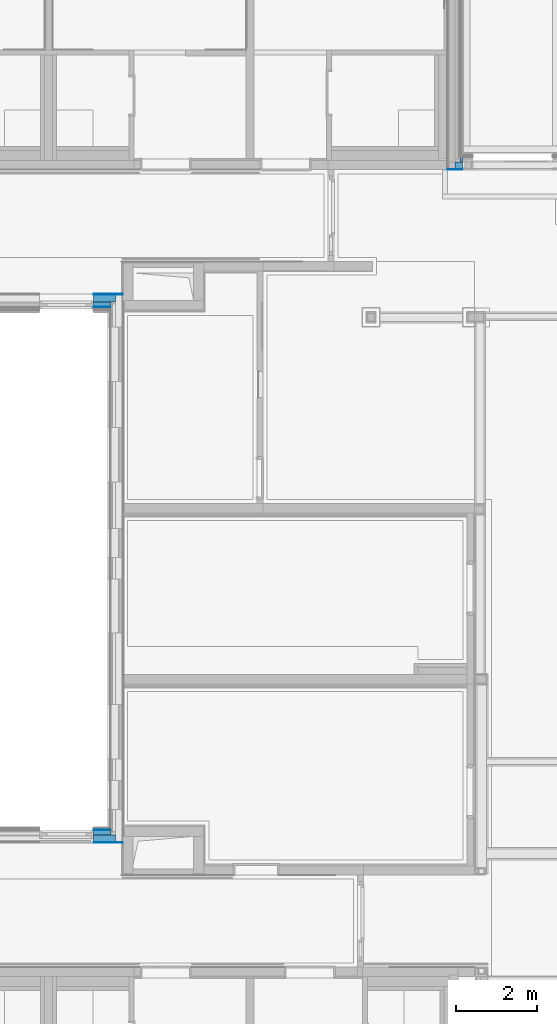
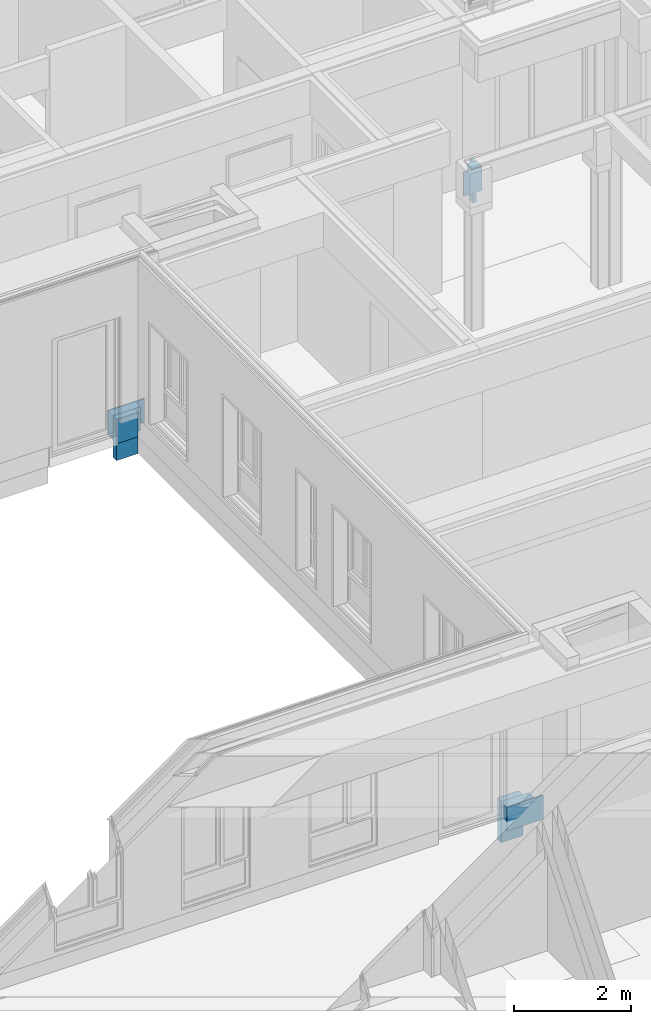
# One storey, part 62 of 207: 11 walls.
"""IFC4 building model written with IfcOpenShell, lengths in metres."""

from ifc_helpers import new_model, entity, si_unit, converted_unit, derived_unit, frame, frame_2d, origin, origin_with_axes, place, context, subcontext, project, spatial, rectangle, extrude, material, element, save


model = new_model("IFC4")

# Units and contexts
model_context = context("Model", 3, precision=1e-05, world=origin())
body_context = subcontext(model_context, "Body", "Model", "MODEL_VIEW")
ifc_project = project(units=[si_unit("LENGTHUNIT", "METRE"), si_unit("AREAUNIT", "SQUARE_METRE"), si_unit("VOLUMEUNIT", "CUBIC_METRE"), si_unit("MASSUNIT", "GRAM", prefix="KILO"), converted_unit("PLANEANGLEUNIT", "DEGREE", entity("IfcPlaneAngleMeasure", 0.0174532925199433), si_unit("PLANEANGLEUNIT", "RADIAN"), dimensions=[0, 0, 0, 0, 0, 0, 0]), derived_unit("THERMALTRANSMITTANCEUNIT", [(si_unit("POWERUNIT", "WATT"), 1), (si_unit("THERMODYNAMICTEMPERATUREUNIT", "KELVIN"), -1), (si_unit("LENGTHUNIT", "METRE"), -2)]), derived_unit("VOLUMETRICFLOWRATEUNIT", [(si_unit("LENGTHUNIT", "METRE"), 3), (converted_unit("TIMEUNIT", "hour", entity("IfcTimeMeasure", 3600.0), si_unit("TIMEUNIT", "SECOND"), dimensions=[0, 0, 1, 0, 0, 0, 0]), -1), (si_unit("LENGTHUNIT", "METRE"), -1)])], contexts=[model_context])

# Site, building, storey
site_placement = place(None, origin())
site = spatial("IfcSite", under=ifc_project, at=site_placement, Name="Psychiatrie Neubau Wunstorf", CompositionType="ELEMENT")
building_placement = place(site_placement, origin())
building = spatial("IfcBuilding", under=site, at=building_placement, Name="Neubau H2 Stationsgebäude", CompositionType="ELEMENT")
storey_placement = place(building_placement, frame((0.0, 0.0, -0.2)))
storey = spatial("IfcBuildingStorey", under=building, at=storey_placement, Name="H2 Ebene 0", CompositionType="ELEMENT", Elevation=-0.2)

# Walls
ifc_material_1 = material(Name="WA-LB")
wall_1_placement = place(storey_placement, frame((34.91, 24.1140036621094, 0.0)))
element("IfcWall", 1, at=wall_1_placement, inside=storey, material=ifc_material_1, context=body_context, shape_type="SweptSolid", body=[
    extrude(rectangle(XDim=0.36, YDim=0.021, at=frame_2d((0.18, 0.0105), x_axis=(1.0, 0.0))), origin_with_axes(), (0.0, 0.0, 1.0), 0.5),
])
ifc_material_2 = material(Name="WA-STB")
wall_2_placement = place(storey_placement, frame((35.085, 24.1350036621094, 0.0)))
element("IfcWall", 2, at=wall_2_placement, inside=storey, material=ifc_material_2, context=body_context, shape_type="SweptSolid", body=[
    extrude(rectangle(XDim=0.185, YDim=0.175, at=frame_2d((0.0925, 0.0875), x_axis=(1.0, 0.0))), origin_with_axes(), (0.0, 0.0, 1.0), 0.5),
])
ifc_material_3 = material(Name="WA-DE")
wall_3_placement = place(storey_placement, frame((35.205, 24.3100036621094, -0.36)))
element("IfcWall", 3, at=wall_3_placement, inside=storey, material=ifc_material_3, context=body_context, shape_type="SweptSolid", body=[
    extrude(rectangle(XDim=0.065, YDim=0.12, at=frame_2d((0.0325, 0.06), x_axis=(1.0, 0.0))), origin_with_axes(), (0.0, 0.0, 1.0), 0.86),
])
ifc_material_4 = material(Name="WA-LB")
wall_4_placement = place(storey_placement, frame((26.84, 21.036, 0.0), z_axis=(0.0, 0.0, 1.0), x_axis=(-1.0, 0.0, 0.0)))
element("IfcWall", 4, at=wall_4_placement, inside=storey, material=ifc_material_4, context=body_context, shape_type="SweptSolid", body=[
    extrude(rectangle(XDim=0.719831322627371, YDim=0.021, at=frame_2d((0.359915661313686, 0.0105), x_axis=(1.0, 0.0))), origin_with_axes(), (0.0, 0.0, 1.0), 0.5),
])
ifc_material_5 = material(Name="WA-STB")
wall_5_placement = place(storey_placement, frame((26.665, 21.015, 0.0), z_axis=(0.0, 0.0, 1.0), x_axis=(-1.0, 0.0, 0.0)))
element("IfcWall", 5, at=wall_5_placement, inside=storey, material=ifc_material_5, context=body_context, shape_type="SweptSolid", body=[
    extrude(rectangle(XDim=0.544831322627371, YDim=0.175, at=frame_2d((0.272415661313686, 0.0875), x_axis=(1.0, 0.0))), origin_with_axes(), (0.0, 0.0, 1.0), 0.5),
])
ifc_material_6 = material(Name="WA-DE")
wall_6_placement = place(storey_placement, frame((26.545, 20.84, -0.36), z_axis=(0.0, 0.0, 1.0), x_axis=(-1.0, 0.0, 0.0)))
element("IfcWall", 6, at=wall_6_placement, inside=storey, material=ifc_material_6, context=body_context, shape_type="SweptSolid", body=[
    extrude(rectangle(XDim=0.424831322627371, YDim=0.12, at=frame_2d((0.212415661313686, 0.06), x_axis=(1.0, 0.0))), origin_with_axes(), (0.0, 0.0, 1.0), 0.86),
])
ifc_material_7 = material(Name="WA-LB")
wall_7_placement = place(storey_placement, frame((26.53, 20.72, 0.0), z_axis=(0.0, 0.0, 1.0), x_axis=(-1.0, 0.0, 0.0)))
element("IfcWall", 7, at=wall_7_placement, inside=storey, material=ifc_material_7, context=body_context, shape_type="SweptSolid", body=[
    extrude(rectangle(XDim=0.409831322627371, YDim=0.015, at=frame_2d((0.204915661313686, 0.0075), x_axis=(1.0, 0.0))), origin_with_axes(), (0.0, 0.0, 1.0), 0.5),
])
ifc_material_8 = material(Name="WA-LB")
wall_8_placement = place(storey_placement, frame((26.1201686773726, 7.414, 0.0)))
element("IfcWall", 8, at=wall_8_placement, inside=storey, material=ifc_material_8, context=body_context, shape_type="SweptSolid", body=[
    extrude(rectangle(XDim=0.719831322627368, YDim=0.021, at=frame_2d((0.359915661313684, 0.0105), x_axis=(1.0, 0.0))), origin_with_axes(), (0.0, 0.0, 1.0), 0.5),
])
ifc_material_9 = material(Name="WA-STB")
wall_9_placement = place(storey_placement, frame((26.1201686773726, 7.435, 0.0)))
element("IfcWall", 9, at=wall_9_placement, inside=storey, material=ifc_material_9, context=body_context, shape_type="SweptSolid", body=[
    extrude(rectangle(XDim=0.544831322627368, YDim=0.174999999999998, at=frame_2d((0.272415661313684, 0.0874999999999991), x_axis=(1.0, 0.0))), origin_with_axes(), (0.0, 0.0, 1.0), 0.5),
])
ifc_material_10 = material(Name="WA-DE")
wall_10_placement = place(storey_placement, frame((26.1201686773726, 7.61, -0.36)))
element("IfcWall", 10, at=wall_10_placement, inside=storey, material=ifc_material_10, context=body_context, shape_type="SweptSolid", body=[
    extrude(rectangle(XDim=0.424831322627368, YDim=0.12, at=frame_2d((0.212415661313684, 0.06), x_axis=(1.0, 0.0))), origin_with_axes(), (0.0, 0.0, 1.0), 0.86),
])
ifc_material_11 = material(Name="WA-LB")
wall_11_placement = place(storey_placement, frame((26.1201686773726, 7.73, 0.0)))
element("IfcWall", 11, at=wall_11_placement, inside=storey, material=ifc_material_11, context=body_context, shape_type="SweptSolid", body=[
    extrude(rectangle(XDim=0.409831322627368, YDim=0.015, at=frame_2d((0.204915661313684, 0.0075), x_axis=(1.0, 0.0))), origin_with_axes(), (0.0, 0.0, 1.0), 0.5),
])

save(model, "model.ifc")
